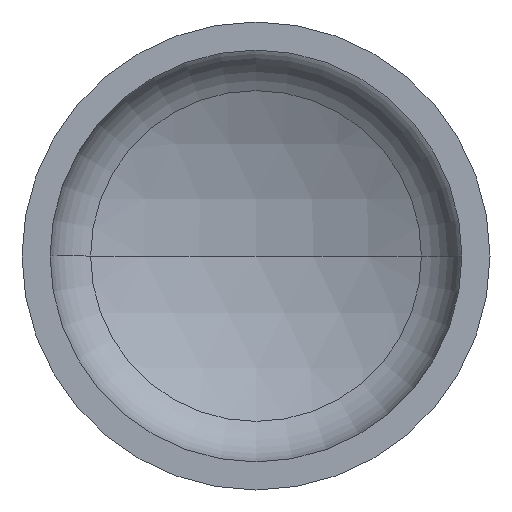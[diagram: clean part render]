
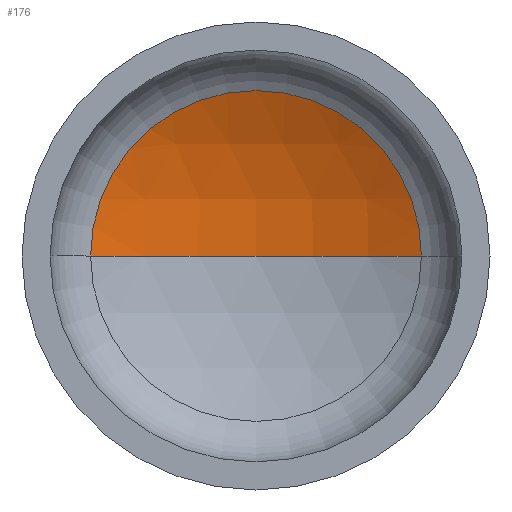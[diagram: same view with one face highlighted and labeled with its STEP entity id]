
A CAD part, front view. The second image highlights one B-rep face of the part: STEP entity #176.
In plain terms, the highlighted spherical face has radius 1600 mm.
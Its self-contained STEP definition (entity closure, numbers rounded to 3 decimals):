
#4 = ORIENTED_EDGE ( 'NONE', *, *, #310, .T. ) ;
#11 = EDGE_LOOP ( 'NONE', ( #56, #4, #22 ) ) ;
#22 = ORIENTED_EDGE ( 'NONE', *, *, #333, .T. ) ;
#28 = CARTESIAN_POINT ( 'NONE',  ( 0., -1082.238, 0. ) ) ;
#35 = CARTESIAN_POINT ( 'NONE',  ( 0., -1082.238, 0. ) ) ;
#37 = VERTEX_POINT ( 'NONE', #220 ) ;
#46 = DIRECTION ( 'NONE',  ( 0., 0., -1. ) ) ;
#51 = DIRECTION ( 'NONE',  ( -1., 0., 0. ) ) ;
#56 = ORIENTED_EDGE ( 'NONE', *, *, #287, .F. ) ;
#57 = VERTEX_POINT ( 'NONE', #342 ) ;
#71 = CARTESIAN_POINT ( 'NONE',  ( 0., -1082.238, 0. ) ) ;
#82 = VERTEX_POINT ( 'NONE', #298 ) ;
#84 = CARTESIAN_POINT ( 'NONE',  ( 0., 353.096, 0. ) ) ;
#126 = DIRECTION ( 'NONE',  ( 0., -1., 0. ) ) ;
#130 = DIRECTION ( 'NONE',  ( 1., 0., 0. ) ) ;
#153 = AXIS2_PLACEMENT_3D ( 'NONE', #71, #208, #183 ) ;
#156 = FACE_OUTER_BOUND ( 'NONE', #11, .T. ) ;
#176 = ADVANCED_FACE ( 'NONE', ( #156 ), #288, .F. ) ;
#183 = DIRECTION ( 'NONE',  ( -1., 0., 0. ) ) ;
#202 = CIRCLE ( 'NONE', #292, 1600. ) ;
#208 = DIRECTION ( 'NONE',  ( 0., 0., -1. ) ) ;
#220 = CARTESIAN_POINT ( 'NONE',  ( -706.977, 353.096, 0. ) ) ;
#265 = CIRCLE ( 'NONE', #354, 706.977 ) ;
#277 = DIRECTION ( 'NONE',  ( 1., 0., 0. ) ) ;
#278 = AXIS2_PLACEMENT_3D ( 'NONE', #28, #46, #51 ) ;
#287 = EDGE_CURVE ( 'NONE', #82, #37, #202, .T. ) ;
#288 = SPHERICAL_SURFACE ( 'NONE', #153, 1600. ) ;
#292 = AXIS2_PLACEMENT_3D ( 'NONE', #35, #382, #277 ) ;
#298 = CARTESIAN_POINT ( 'NONE',  ( 0., 517.762, 0. ) ) ;
#310 = EDGE_CURVE ( 'NONE', #82, #57, #394, .T. ) ;
#333 = EDGE_CURVE ( 'NONE', #57, #37, #265, .T. ) ;
#342 = CARTESIAN_POINT ( 'NONE',  ( 706.977, 353.096, 0. ) ) ;
#354 = AXIS2_PLACEMENT_3D ( 'NONE', #84, #126, #130 ) ;
#382 = DIRECTION ( 'NONE',  ( 0., 0., 1. ) ) ;
#394 = CIRCLE ( 'NONE', #278, 1600. ) ;
